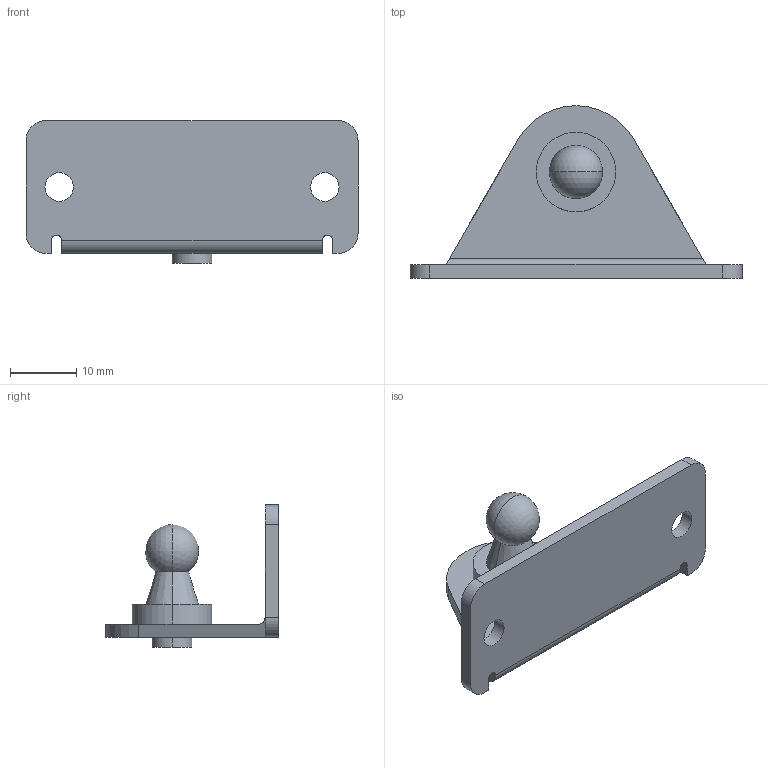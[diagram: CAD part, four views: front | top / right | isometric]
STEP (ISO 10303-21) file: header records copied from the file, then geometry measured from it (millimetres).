
FILE_DESCRIPTION (( 'STEP AP214' ), '1' );
FILE_NAME ('15.BVSBB30K08.STEP', '2017-11-22T20:54:02', ( '' ), ( '' ), 'SwSTEP 2.0', 'SolidWorks 2016', '' );
FILE_SCHEMA (( 'AUTOMOTIVE_DESIGN' ));
Length unit declared in the file: millimetre
Products named in the file (1): 15.BVSBB30K08
Bounding box: 50 x 26 x 21.5 mm (x, y, z)
Volume: 3889 mm3; surface area: 3825.5 mm2
Topology: 1 solids, 1 shells, 38 faces, 97 edges, 62 vertices
Faces by surface type: cylinder 17, plane 17, cone 2, sphere 2
Entity records: 1160 total; most frequent: DIRECTION 206, CARTESIAN_POINT 196, ORIENTED_EDGE 184, EDGE_CURVE 92, AXIS2_PLACEMENT_3D 77, VERTEX_POINT 59, LINE 52, VECTOR 52
